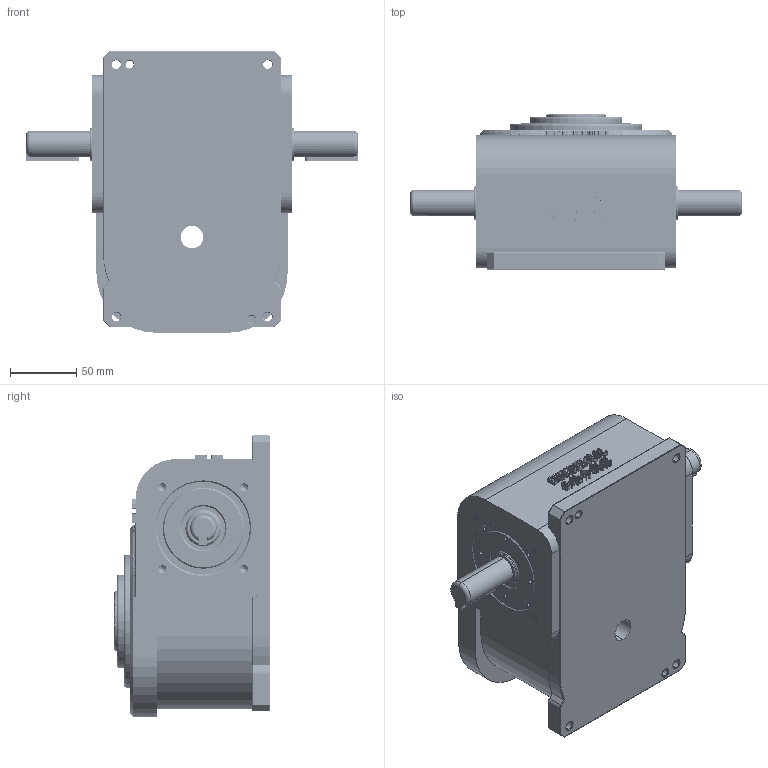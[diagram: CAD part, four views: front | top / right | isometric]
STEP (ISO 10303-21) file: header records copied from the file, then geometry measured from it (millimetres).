
FILE_DESCRIPTION (( 'STEP AP214' ), '1' );
FILE_NAME ('ER-RU70DA英锐凸轮分割器3D固定盘壳体和法兰面加销孔标准图纸(电话15062628977)AA.STEP', '2022-07-18T07:15:26', ( '微软用户' ), ( '微软中国' ), 'SwSTEP 2.0', 'SolidWorks 2017', '' );
FILE_SCHEMA (( 'AUTOMOTIVE_DESIGN' ));
Length unit declared in the file: millimetre
Products named in the file (1): ER-RU70DA英锐凸轮分割器3D固定盘壳体和法兰面加销孔标准图纸(电话15062628977)AA
Bounding box: 250 x 117 x 212 mm (x, y, z)
Volume: 2757805.8 mm3; surface area: 158132.6 mm2
Topology: 1 solids, 1 shells, 1686 faces, 4452 edges, 2874 vertices
Faces by surface type: cylinder 682, plane 465, bspline 348, cone 174, torus 17
Entity records: 113919 total; most frequent: CARTESIAN_POINT 77654, ORIENTED_EDGE 8808, DIRECTION 5656, EDGE_CURVE 4404, VERTEX_POINT 2874, LINE 2038, VECTOR 2038, EDGE_LOOP 1854
